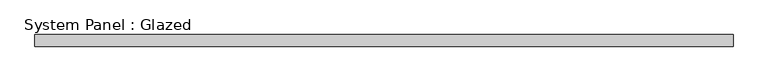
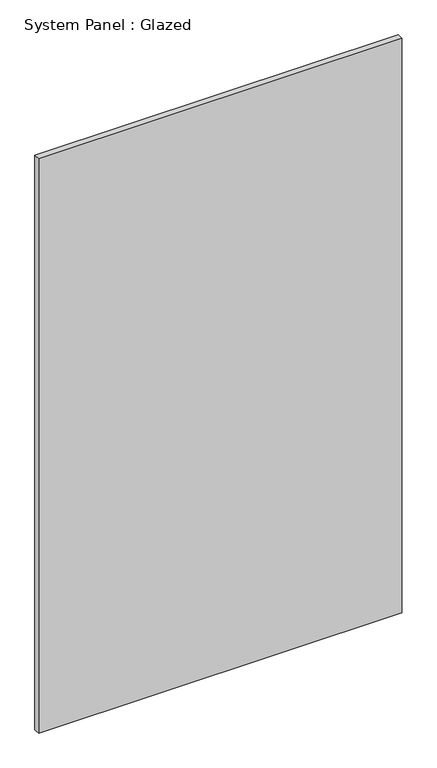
"""IFC4 building model written with IfcOpenShell, lengths in millimetres: plate geometry, System Panel : Glazed."""

from ifc_helpers import new_model, si_unit, origin, origin_with_axes, place, context, project, spatial, polyline, outline, extrude, source, transform, mapped, element, save


def system_panel_glazed_9da04d51(model_context):
    return source(origin(), model_context, "Body", "SweptSolid", [
        extrude(outline(polyline([(738.3638889, -12.7), (-738.3638889, -12.7), (-738.3638889, 12.7), (738.3638889, 12.7), (738.3638889, -12.7)])), origin_with_axes(), (0.0, 0.0, 1.0), 2466.5116285),
    ])


if __name__ == "__main__":
    model = new_model("IFC4")
    model_context = context("Model", 3, world=origin())
    ifc_project = project(units=[si_unit("LENGTHUNIT", "METRE", prefix="MILLI")], contexts=[model_context])
    site = spatial("IfcSite", under=ifc_project)
    building = spatial("IfcBuilding", under=site)
    placement = place(None, origin())
    system_panel_glazed_shape = system_panel_glazed_9da04d51(model_context)
    element("IfcPlate", 1, ObjectType="System Panel : Glazed", at=placement, inside=building, context=model_context, shape_type="MappedRepresentation", body=[
        mapped(system_panel_glazed_shape, transform((0.0, 0.0, 0.0), x_axis=(1.0, 0.0, 0.0), y_axis=(0.0, 1.0, 0.0), z_axis=(0.0, 0.0, 1.0))),
    ])
    save(model, "model.ifc")
